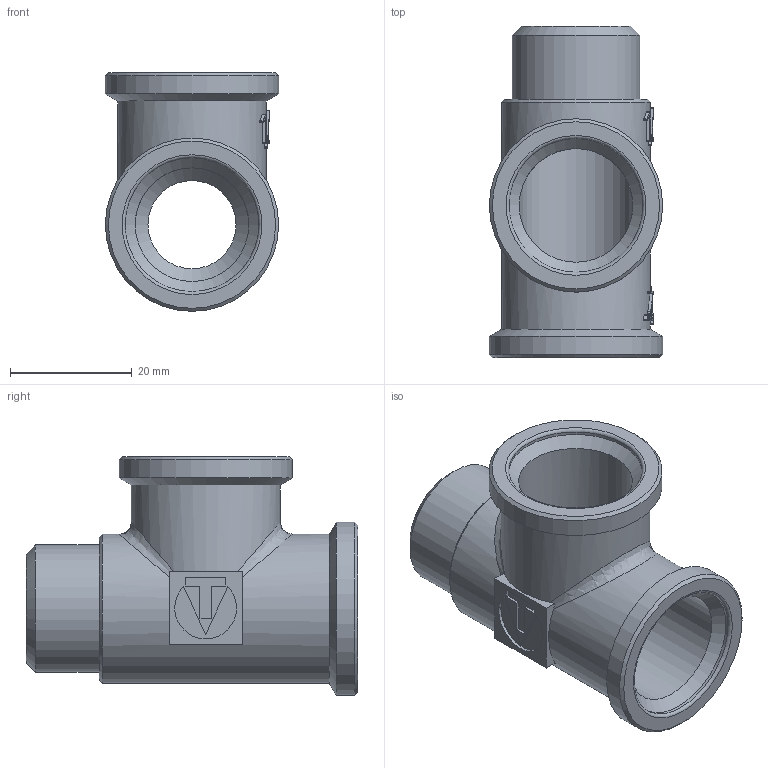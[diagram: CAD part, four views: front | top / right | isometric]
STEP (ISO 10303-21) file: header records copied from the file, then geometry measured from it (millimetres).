
FILE_DESCRIPTION(('STEP AP203'), '1');
FILE_NAME('ÂÐ.752249.010 - VTr.134.N.0004 - Ôèò. ðåçüá. òðîé', '2024-06-26T06:27:23', ('Boss'), (''), 'C3D Converter', 'C3D Toolkit', '');
FILE_SCHEMA(('CONFIG_CONTROL_DESIGN'));
Length unit declared in the file: millimetre
Products named in the file (1): ВР.752249.010
Bounding box: 28.5 x 54.5 x 39.25 mm (x, y, z)
Volume: 14087.7 mm3; surface area: 9803.8 mm2
Topology: 1 solids, 1 shells, 304 faces, 841 edges, 554 vertices
Faces by surface type: extrusion 174, plane 90, cylinder 26, cone 10, bspline 2, torus 2
Full cylindrical faces by diameter (mm): 14.5 x1, 18.7 x2, 20.955 x1, 22 x2, 24.5 x2, 28.5 x2
Entity records: 13492 total; most frequent: CARTESIAN_POINT 6817, ORIENTED_EDGE 1630, DIRECTION 819, EDGE_CURVE 815, VERTEX_POINT 554, B_SPLINE_CURVE_WITH_KNOTS 531, VECTOR 469, EDGE_LOOP 349
